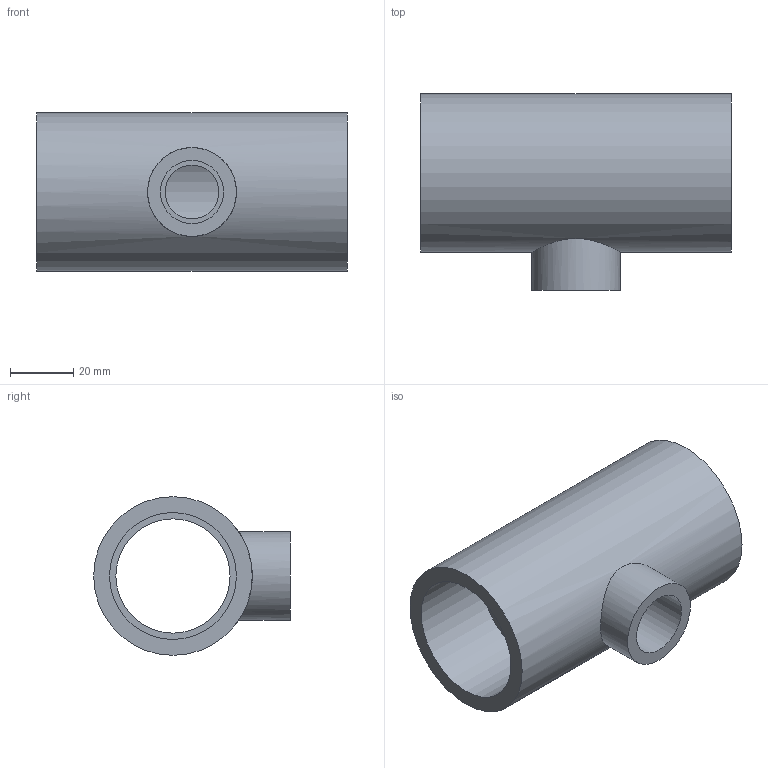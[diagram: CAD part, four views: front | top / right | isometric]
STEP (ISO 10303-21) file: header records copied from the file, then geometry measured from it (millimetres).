
FILE_DESCRIPTION(/* description */ ('PVC ti a 90° ridotto incollaggio metrico'),/* implementation_level */ '2;1');
FILE_NAME(/* name */ 'C:\Users\POLYPIPE\Desktop\DATASET INVENTOR\LIBRERIA EFFAST\RACCORDI 3DxWEB\RDR\3D_RDRTRD\3D_RDRTRD040B.stp',/* time_stamp */ '2018-01-19T15:46:00+01:00',/* author */ ('POLYPIPE'),/* organization */ ('Polypipe Italia s.r.l.'),/* preprocessor_version */ 'ST-DEVELOPER v16.1',/* originating_system */ 'Autodesk Inventor 2016',/* authorisation */ '');
FILE_SCHEMA (('CONFIG_CONTROL_DESIGN'));
Length unit declared in the file: millimetre
Products named in the file (1): 3D_RDRTRD
Bounding box: 98 x 62 x 50 mm (x, y, z)
Volume: 81982 mm3; surface area: 31021.8 mm2
Topology: 1 solids, 1 shells, 13 faces, 23 edges, 16 vertices
Faces by surface type: cylinder 7, plane 6
Full cylindrical faces by diameter (mm): 17 x1, 20 x1, 28 x1, 36 x1, 40 x2, 50 x1
Entity records: 382 total; most frequent: CARTESIAN_POINT 124, DIRECTION 52, EDGE_LOOP 28, ORIENTED_EDGE 28, AXIS2_PLACEMENT_3D 26, FACE_BOUND 15, VERTEX_POINT 14, EDGE_CURVE 14
